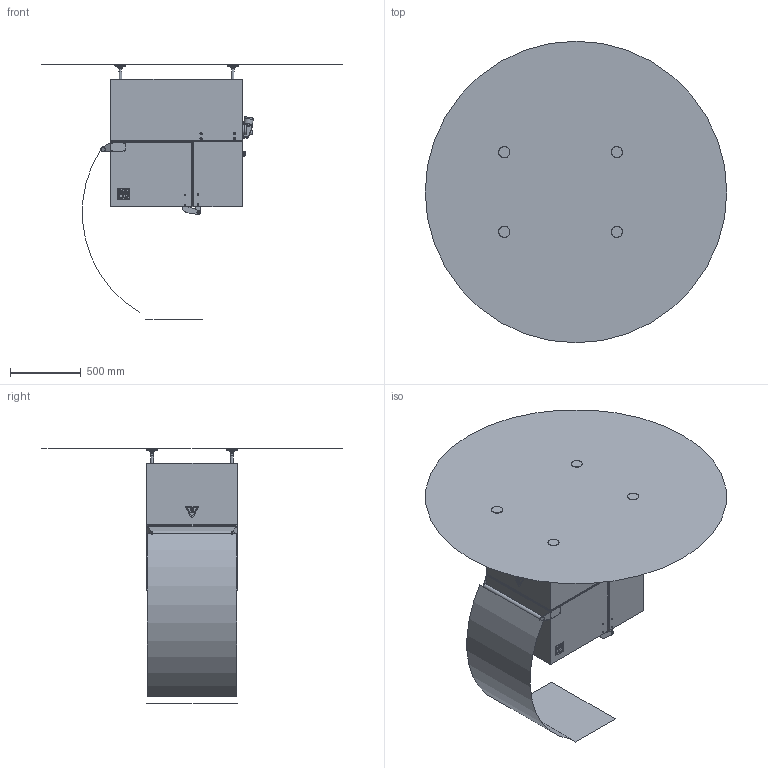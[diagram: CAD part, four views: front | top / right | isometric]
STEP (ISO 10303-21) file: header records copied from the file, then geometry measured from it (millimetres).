
FILE_DESCRIPTION((''),'2;1');
FILE_NAME('C:\Users\ld\Desktop\Filer til Christian Neve\STP\STP\10G1000-derive-clearance.stp','2015-11-26T11:23:53',('ld'),(''),'Autodesk Inventor 2013','Autodesk Inventor 2013','');
FILE_SCHEMA(('AUTOMOTIVE_DESIGN { 1 0 10303 214 1 1 1 1 }'));
Length unit declared in the file: millimetre
Products named in the file (1): 10G1000-derive-clearance
Bounding box: 2130 x 2130 x 1800 mm (x, y, z)
Volume: 233232445 mm3; surface area: 12622634.4 mm2
Topology: 4 solids, 10 shells, 1081 faces, 2604 edges, 1687 vertices
Faces by surface type: plane 662, cylinder 314, torus 54, cone 29, bspline 20, sphere 2
Full cylindrical faces by diameter (mm): 2.53 x1, 3 x1, 4.822 x1, 5 x12, 5.2 x8, 6 x4, 6.647 x18, 7 x4, 8 x1, 8.5 x8, 9 x4, 12 x1, 14 x1, 15 x1, 16 x19, 19 x1, 19.5 x3, 20 x5, 20.8 x2, 21 x3, 22 x4, 22.835 x1, 23 x2, 24 x1, 25 x3, 25.5 x3, 26 x1, 27.5 x1, 28 x3, 29.5 x1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
Entity records: 32430 total; most frequent: CARTESIAN_POINT 6476, DIRECTION 5201, ORIENTED_EDGE 4683, EDGE_CURVE 2346, AXIS2_PLACEMENT_3D 1839, VERTEX_POINT 1627, VECTOR 1523, LINE 1523
